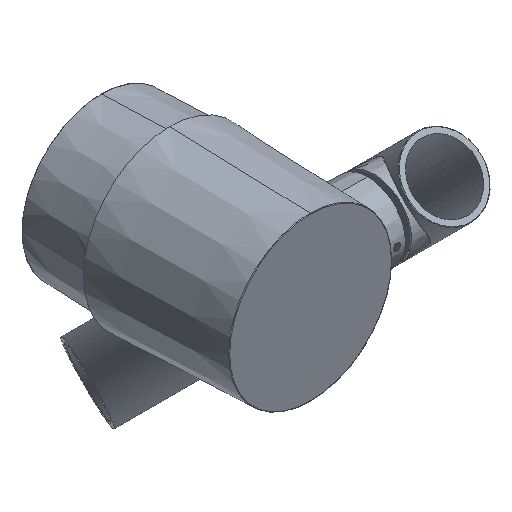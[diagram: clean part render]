
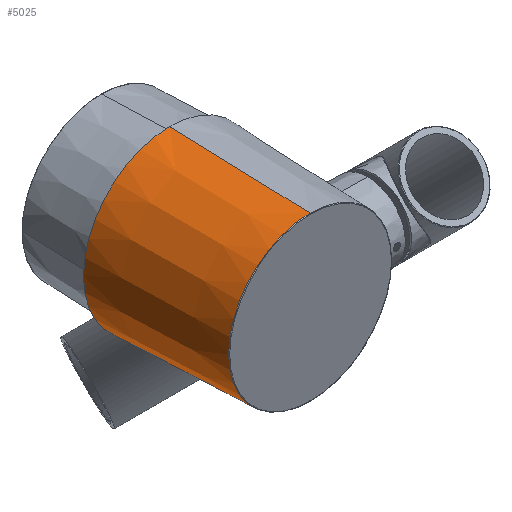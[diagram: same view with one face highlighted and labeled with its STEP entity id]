
A CAD part, isometric view. The second image highlights one B-rep face of the part: STEP entity #5025.
In plain terms, the highlighted conical face has half-angle 2 degrees and reference radius 44.696 mm.
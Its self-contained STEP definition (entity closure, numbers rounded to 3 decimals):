
#4241=CARTESIAN_POINT('',(-0.556,75.366,0.));
#4242=DIRECTION('',(0.,1.,0.));
#4243=DIRECTION('',(0.,0.,-1.));
#4244=AXIS2_PLACEMENT_3D('',#4241,#4242,#4243);
#4312=DIRECTION('',(0.,0.999,0.035));
#4313=VECTOR('',#4312,74.756);
#4314=CARTESIAN_POINT('',(-0.556,0.655,
43.391));
#4315=LINE('',#4314,#4313);
#4316=DIRECTION('',(0.,-0.999,0.035));
#4317=VECTOR('',#4316,74.756);
#4318=CARTESIAN_POINT('',(-0.556,75.366,-46.));
#4319=LINE('',#4318,#4317);
#4476=CARTESIAN_POINT('',(-0.556,0.655,0.));
#4477=DIRECTION('',(0.,-1.,0.));
#4478=DIRECTION('',(0.,0.,1.));
#4479=AXIS2_PLACEMENT_3D('',#4476,#4477,#4478);
#4911=CARTESIAN_POINT('',(-0.556,75.366,-46.));
#4912=CARTESIAN_POINT('',(-0.556,75.366,46.));
#4913=VERTEX_POINT('',#4911);
#4914=VERTEX_POINT('',#4912);
#4919=CARTESIAN_POINT('',(-0.556,0.655,
-43.391));
#4920=CARTESIAN_POINT('',(-0.556,0.655,
43.391));
#4921=VERTEX_POINT('',#4919);
#4922=VERTEX_POINT('',#4920);
#5013=CARTESIAN_POINT('',(-0.556,38.01,0.));
#5014=DIRECTION('',(0.,1.,0.));
#5015=DIRECTION('',(0.,0.,-1.));
#5016=AXIS2_PLACEMENT_3D('',#5013,#5014,#5015);
#5017=CONICAL_SURFACE('',#5016,44.696,2.);
#5019=ORIENTED_EDGE('',*,*,#5018,.T.);
#5020=ORIENTED_EDGE('',*,*,#5002,.F.);
#5021=ORIENTED_EDGE('',*,*,#4971,.T.);
#5022=ORIENTED_EDGE('',*,*,#4999,.F.);
#5023=EDGE_LOOP('',(#5019,#5020,#5021,#5022));
#5024=FACE_OUTER_BOUND('',#5023,.F.);
#5025=ADVANCED_FACE('',(#5024),#5017,.T.);
#4245=CIRCLE('',#4244,46.);
#4480=CIRCLE('',#4479,43.391);
#4971=EDGE_CURVE('',#4913,#4914,#4245,.T.);
#4999=EDGE_CURVE('',#4922,#4914,#4315,.T.);
#5002=EDGE_CURVE('',#4913,#4921,#4319,.T.);
#5018=EDGE_CURVE('',#4922,#4921,#4480,.T.);
